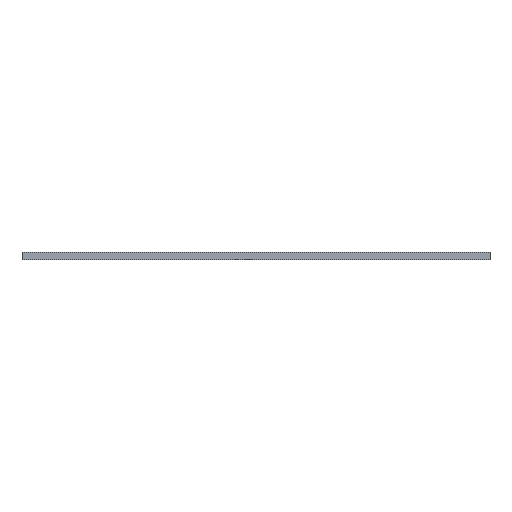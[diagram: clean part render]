
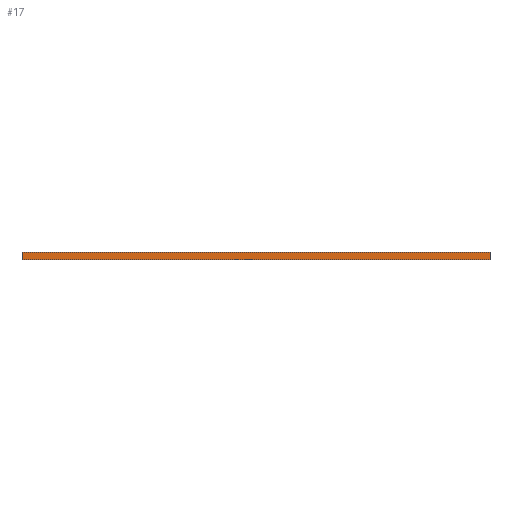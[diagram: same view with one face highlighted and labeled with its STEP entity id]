
A CAD part, front view. The second image highlights one B-rep face of the part: STEP entity #17.
In plain terms, the highlighted planar face has unit normal (0, -1, 0).
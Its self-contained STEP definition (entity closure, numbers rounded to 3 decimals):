
#17 = ADVANCED_FACE('',(#18),#32,.F.);
#18 = FACE_BOUND('',#19,.F.);
#19 = EDGE_LOOP('',(#20,#55,#83,#111));
#20 = ORIENTED_EDGE('',*,*,#21,.T.);
#21 = EDGE_CURVE('',#22,#24,#26,.T.);
#22 = VERTEX_POINT('',#23);
#23 = CARTESIAN_POINT('',(0.,0.,0.));
#24 = VERTEX_POINT('',#25);
#25 = CARTESIAN_POINT('',(0.,0.,18.));
#26 = SURFACE_CURVE('',#27,(#31,#43),.PCURVE_S1.);
#27 = LINE('',#28,#29);
#28 = CARTESIAN_POINT('',(0.,0.,0.));
#29 = VECTOR('',#30,1.);
#30 = DIRECTION('',(0.,0.,1.));
#31 = PCURVE('',#32,#37);
#32 = PLANE('',#33);
#33 = AXIS2_PLACEMENT_3D('',#34,#35,#36);
#34 = CARTESIAN_POINT('',(0.,0.,0.));
#35 = DIRECTION('',(0.,1.,0.));
#36 = DIRECTION('',(1.,0.,0.));
#37 = DEFINITIONAL_REPRESENTATION('',(#38),#42);
#38 = LINE('',#39,#40);
#39 = CARTESIAN_POINT('',(0.,0.));
#40 = VECTOR('',#41,1.);
#41 = DIRECTION('',(0.,-1.));
#42 = ( GEOMETRIC_REPRESENTATION_CONTEXT(2) 
PARAMETRIC_REPRESENTATION_CONTEXT() REPRESENTATION_CONTEXT('2D SPACE',''
  ) );
#43 = PCURVE('',#44,#49);
#44 = PLANE('',#45);
#45 = AXIS2_PLACEMENT_3D('',#46,#47,#48);
#46 = CARTESIAN_POINT('',(0.,919.693,0.));
#47 = DIRECTION('',(1.,0.,-0.));
#48 = DIRECTION('',(0.,-1.,0.));
#49 = DEFINITIONAL_REPRESENTATION('',(#50),#54);
#50 = LINE('',#51,#52);
#51 = CARTESIAN_POINT('',(919.693,0.));
#52 = VECTOR('',#53,1.);
#53 = DIRECTION('',(0.,-1.));
#54 = ( GEOMETRIC_REPRESENTATION_CONTEXT(2) 
PARAMETRIC_REPRESENTATION_CONTEXT() REPRESENTATION_CONTEXT('2D SPACE',''
  ) );
#55 = ORIENTED_EDGE('',*,*,#56,.T.);
#56 = EDGE_CURVE('',#24,#57,#59,.T.);
#57 = VERTEX_POINT('',#58);
#58 = CARTESIAN_POINT('',(1200.,0.,18.));
#59 = SURFACE_CURVE('',#60,(#64,#71),.PCURVE_S1.);
#60 = LINE('',#61,#62);
#61 = CARTESIAN_POINT('',(0.,0.,18.));
#62 = VECTOR('',#63,1.);
#63 = DIRECTION('',(1.,0.,0.));
#64 = PCURVE('',#32,#65);
#65 = DEFINITIONAL_REPRESENTATION('',(#66),#70);
#66 = LINE('',#67,#68);
#67 = CARTESIAN_POINT('',(0.,-18.));
#68 = VECTOR('',#69,1.);
#69 = DIRECTION('',(1.,0.));
#70 = ( GEOMETRIC_REPRESENTATION_CONTEXT(2) 
PARAMETRIC_REPRESENTATION_CONTEXT() REPRESENTATION_CONTEXT('2D SPACE',''
  ) );
#71 = PCURVE('',#72,#77);
#72 = PLANE('',#73);
#73 = AXIS2_PLACEMENT_3D('',#74,#75,#76);
#74 = CARTESIAN_POINT('',(600.,459.846,18.));
#75 = DIRECTION('',(0.,0.,1.));
#76 = DIRECTION('',(1.,0.,-0.));
#77 = DEFINITIONAL_REPRESENTATION('',(#78),#82);
#78 = LINE('',#79,#80);
#79 = CARTESIAN_POINT('',(-600.,-459.846));
#80 = VECTOR('',#81,1.);
#81 = DIRECTION('',(1.,0.));
#82 = ( GEOMETRIC_REPRESENTATION_CONTEXT(2) 
PARAMETRIC_REPRESENTATION_CONTEXT() REPRESENTATION_CONTEXT('2D SPACE',''
  ) );
#83 = ORIENTED_EDGE('',*,*,#84,.F.);
#84 = EDGE_CURVE('',#85,#57,#87,.T.);
#85 = VERTEX_POINT('',#86);
#86 = CARTESIAN_POINT('',(1200.,0.,0.));
#87 = SURFACE_CURVE('',#88,(#92,#99),.PCURVE_S1.);
#88 = LINE('',#89,#90);
#89 = CARTESIAN_POINT('',(1200.,0.,0.));
#90 = VECTOR('',#91,1.);
#91 = DIRECTION('',(0.,0.,1.));
#92 = PCURVE('',#32,#93);
#93 = DEFINITIONAL_REPRESENTATION('',(#94),#98);
#94 = LINE('',#95,#96);
#95 = CARTESIAN_POINT('',(1200.,0.));
#96 = VECTOR('',#97,1.);
#97 = DIRECTION('',(0.,-1.));
#98 = ( GEOMETRIC_REPRESENTATION_CONTEXT(2) 
PARAMETRIC_REPRESENTATION_CONTEXT() REPRESENTATION_CONTEXT('2D SPACE',''
  ) );
#99 = PCURVE('',#100,#105);
#100 = PLANE('',#101);
#101 = AXIS2_PLACEMENT_3D('',#102,#103,#104);
#102 = CARTESIAN_POINT('',(1200.,0.,0.));
#103 = DIRECTION('',(-1.,0.,0.));
#104 = DIRECTION('',(0.,1.,0.));
#105 = DEFINITIONAL_REPRESENTATION('',(#106),#110);
#106 = LINE('',#107,#108);
#107 = CARTESIAN_POINT('',(0.,0.));
#108 = VECTOR('',#109,1.);
#109 = DIRECTION('',(0.,-1.));
#110 = ( GEOMETRIC_REPRESENTATION_CONTEXT(2) 
PARAMETRIC_REPRESENTATION_CONTEXT() REPRESENTATION_CONTEXT('2D SPACE',''
  ) );
#111 = ORIENTED_EDGE('',*,*,#112,.F.);
#112 = EDGE_CURVE('',#22,#85,#113,.T.);
#113 = SURFACE_CURVE('',#114,(#118,#125),.PCURVE_S1.);
#114 = LINE('',#115,#116);
#115 = CARTESIAN_POINT('',(0.,0.,0.));
#116 = VECTOR('',#117,1.);
#117 = DIRECTION('',(1.,0.,0.));
#118 = PCURVE('',#32,#119);
#119 = DEFINITIONAL_REPRESENTATION('',(#120),#124);
#120 = LINE('',#121,#122);
#121 = CARTESIAN_POINT('',(0.,0.));
#122 = VECTOR('',#123,1.);
#123 = DIRECTION('',(1.,0.));
#124 = ( GEOMETRIC_REPRESENTATION_CONTEXT(2) 
PARAMETRIC_REPRESENTATION_CONTEXT() REPRESENTATION_CONTEXT('2D SPACE',''
  ) );
#125 = PCURVE('',#126,#131);
#126 = PLANE('',#127);
#127 = AXIS2_PLACEMENT_3D('',#128,#129,#130);
#128 = CARTESIAN_POINT('',(600.,459.846,0.));
#129 = DIRECTION('',(0.,0.,1.));
#130 = DIRECTION('',(1.,0.,-0.));
#131 = DEFINITIONAL_REPRESENTATION('',(#132),#136);
#132 = LINE('',#133,#134);
#133 = CARTESIAN_POINT('',(-600.,-459.846));
#134 = VECTOR('',#135,1.);
#135 = DIRECTION('',(1.,0.));
#136 = ( GEOMETRIC_REPRESENTATION_CONTEXT(2) 
PARAMETRIC_REPRESENTATION_CONTEXT() REPRESENTATION_CONTEXT('2D SPACE',''
  ) );
